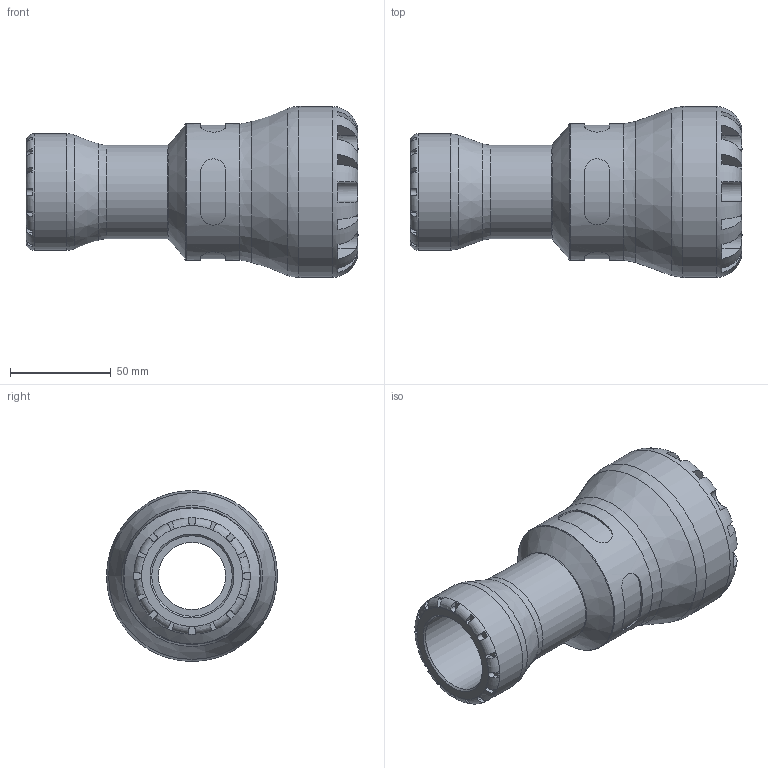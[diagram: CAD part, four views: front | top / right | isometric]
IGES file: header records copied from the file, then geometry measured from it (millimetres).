
Global section: file name: 101100050040_191100050040.ipt; native system: Autodesk Inventor 2015; preprocessor: unknown; author: KIM; date: 20190627.094241; units: millimetre
Bounding box: 165 x 85 x 85 mm (x, y, z)
Volume: 294253.9 mm3; surface area: 65547.1 mm2
Topology: 1 solids, 1 shells, 172 faces, 451 edges, 286 vertices
Faces by surface type: plane 108, revolution 37, cylinder 24, cone 3
Full cylindrical faces by diameter (mm): 46.4 x1, 58 x1, 68 x1, 85 x1
